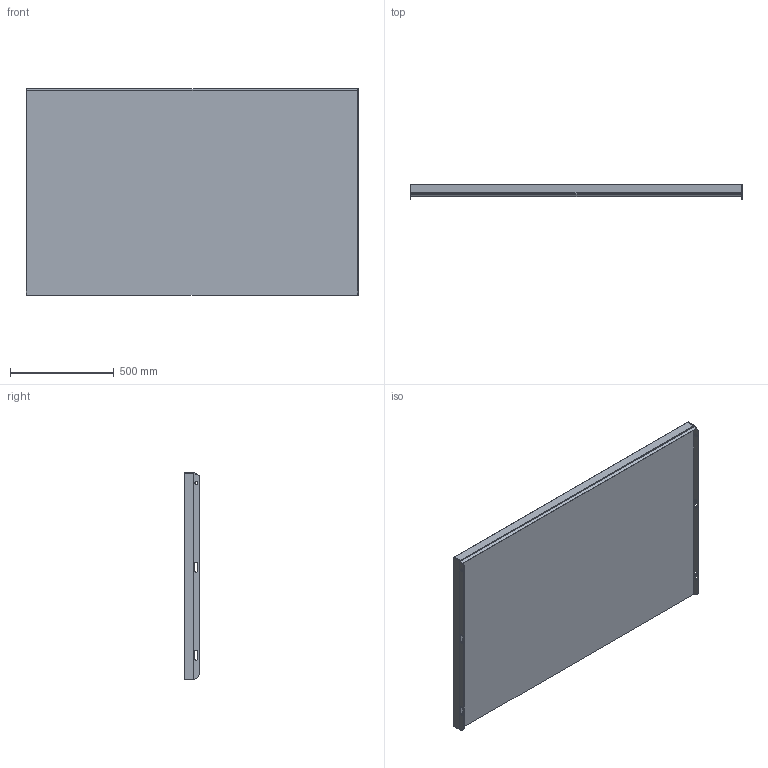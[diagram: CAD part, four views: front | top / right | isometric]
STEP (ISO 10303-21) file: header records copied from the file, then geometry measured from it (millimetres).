
FILE_DESCRIPTION (( 'STEP AP203' ), '1' );
FILE_NAME ('148816101, Plan TH6, 1600x1000, vfz.STEP', '2020-10-21T13:23:53', ( '' ), ( '' ), 'SwSTEP 2.0', 'SolidWorks 2019', '' );
FILE_SCHEMA (( 'CONFIG_CONTROL_DESIGN' ));
Length unit declared in the file: millimetre
Products named in the file (4): SW0000041407; SW0000041811; 148816101, Plan TH6, 1600x1000, vfz; SW0000041758
Assembly tree (4 placements, depth 2):
  148816101, Plan TH6, 1600x1000, vfz
    SW0000041811
    SW0000041407  x2
    SW0000041758
Bounding box: 1600 x 70 x 997 mm (x, y, z)
Volume: 64072356.7 mm3; surface area: 3863564.4 mm2
Topology: 4 solids, 4 shells, 69 faces, 172 edges, 112 vertices
Faces by surface type: plane 49, cylinder 20
Entity records: 1868 total; most frequent: DIRECTION 252, CARTESIAN_POINT 250, ORIENTED_EDGE 236, EDGE_CURVE 118, LINE 96, VECTOR 96, AXIS2_PLACEMENT_3D 78, VERTEX_POINT 76
